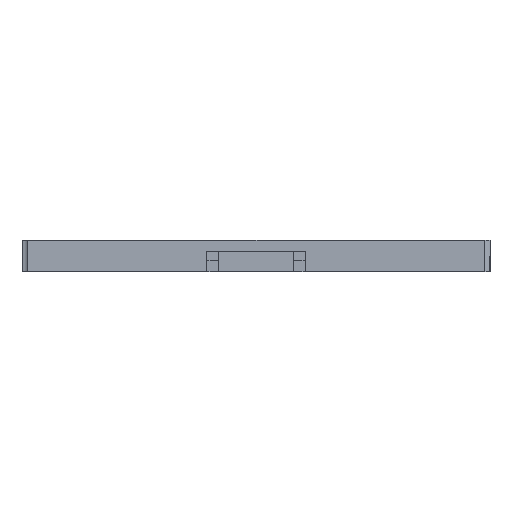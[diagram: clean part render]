
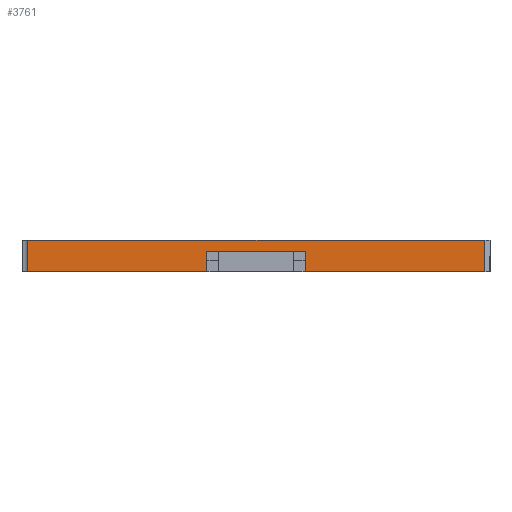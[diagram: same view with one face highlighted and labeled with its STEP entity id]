
A CAD part, front view. The second image highlights one B-rep face of the part: STEP entity #3761.
In plain terms, the highlighted planar face has unit normal (0, -1, 0).
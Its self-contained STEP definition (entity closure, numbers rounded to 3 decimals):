
#302 = CARTESIAN_POINT ( 'NONE',  ( 59., 0., 4.5 ) ) ;
#408 = DIRECTION ( 'NONE',  ( 1., 0., 0. ) ) ;
#706 = CARTESIAN_POINT ( 'NONE',  ( 59., 0., 0. ) ) ;
#1294 = CARTESIAN_POINT ( 'NONE',  ( 121.25, 0., 0. ) ) ;
#1397 = CARTESIAN_POINT ( 'NONE',  ( 0., 0., 7. ) ) ;
#1669 = LINE ( 'NONE', #9933, #8442 ) ;
#1735 = EDGE_CURVE ( 'NONE', #6414, #5324, #11280, .T. ) ;
#1889 = ORIENTED_EDGE ( 'NONE', *, *, #10875, .F. ) ;
#2241 = VECTOR ( 'NONE', #5055, 1000. ) ;
#2309 = DIRECTION ( 'NONE',  ( 0., 0., -1. ) ) ;
#3015 = DIRECTION ( 'NONE',  ( 0., 0., 1. ) ) ;
#3289 = DIRECTION ( 'NONE',  ( -1., 0., 0. ) ) ;
#3313 = EDGE_CURVE ( 'NONE', #11003, #13646, #3701, .T. ) ;
#3464 = ORIENTED_EDGE ( 'NONE', *, *, #13113, .F. ) ;
#3701 = LINE ( 'NONE', #5631, #13787 ) ;
#3761 = ADVANCED_FACE ( 'NONE', ( #4475 ), #7750, .F. ) ;
#3979 = DIRECTION ( 'NONE',  ( 0., 1., 0. ) ) ;
#4148 = ORIENTED_EDGE ( 'NONE', *, *, #3313, .F. ) ;
#4295 = CARTESIAN_POINT ( 'NONE',  ( 59., 0., 76.481 ) ) ;
#4475 = FACE_OUTER_BOUND ( 'NONE', #8804, .T. ) ;
#4730 = CARTESIAN_POINT ( 'NONE',  ( 18.75, 0., 7. ) ) ;
#4865 = ORIENTED_EDGE ( 'NONE', *, *, #6835, .T. ) ;
#5055 = DIRECTION ( 'NONE',  ( 1., 0., 0. ) ) ;
#5159 = VERTEX_POINT ( 'NONE', #302 ) ;
#5324 = VERTEX_POINT ( 'NONE', #11405 ) ;
#5631 = CARTESIAN_POINT ( 'NONE',  ( 0., 0., 7. ) ) ;
#6147 = DIRECTION ( 'NONE',  ( 0., 0., -1. ) ) ;
#6367 = LINE ( 'NONE', #8693, #12490 ) ;
#6414 = VERTEX_POINT ( 'NONE', #11124 ) ;
#6661 = CARTESIAN_POINT ( 'NONE',  ( 18.75, 0., 0. ) ) ;
#6794 = DIRECTION ( 'NONE',  ( 0., 0., -1. ) ) ;
#6835 = EDGE_CURVE ( 'NONE', #5324, #8683, #1669, .T. ) ;
#7306 = CARTESIAN_POINT ( 'NONE',  ( 121.25, 0., 7. ) ) ;
#7357 = VECTOR ( 'NONE', #6147, 1000. ) ;
#7496 = CARTESIAN_POINT ( 'NONE',  ( 81., 0., 76.481 ) ) ;
#7750 = PLANE ( 'NONE',  #10457 ) ;
#7866 = EDGE_CURVE ( 'NONE', #13094, #13002, #9484, .T. ) ;
#8056 = DIRECTION ( 'NONE',  ( 0., 0., -1. ) ) ;
#8442 = VECTOR ( 'NONE', #13706, 1000. ) ;
#8683 = VERTEX_POINT ( 'NONE', #1294 ) ;
#8693 = CARTESIAN_POINT ( 'NONE',  ( 121.25, 0., 7. ) ) ;
#8804 = EDGE_LOOP ( 'NONE', ( #4865, #1889, #4148, #9597, #12049, #3464, #9197, #14539 ) ) ;
#9196 = VECTOR ( 'NONE', #8056, 1000. ) ;
#9197 = ORIENTED_EDGE ( 'NONE', *, *, #13717, .F. ) ;
#9215 = VECTOR ( 'NONE', #6794, 1000. ) ;
#9484 = LINE ( 'NONE', #12331, #2241 ) ;
#9597 = ORIENTED_EDGE ( 'NONE', *, *, #14223, .T. ) ;
#9933 = CARTESIAN_POINT ( 'NONE',  ( 0., 0., 0. ) ) ;
#10381 = LINE ( 'NONE', #12728, #7357 ) ;
#10457 = AXIS2_PLACEMENT_3D ( 'NONE', #1397, #3979, #3015 ) ;
#10641 = LINE ( 'NONE', #12289, #11542 ) ;
#10666 = LINE ( 'NONE', #4295, #9196 ) ;
#10875 = EDGE_CURVE ( 'NONE', #13646, #8683, #6367, .T. ) ;
#11003 = VERTEX_POINT ( 'NONE', #4730 ) ;
#11124 = CARTESIAN_POINT ( 'NONE',  ( 81., 0., 4.5 ) ) ;
#11280 = LINE ( 'NONE', #7496, #9215 ) ;
#11405 = CARTESIAN_POINT ( 'NONE',  ( 81., 0., 0. ) ) ;
#11542 = VECTOR ( 'NONE', #3289, 1000. ) ;
#12049 = ORIENTED_EDGE ( 'NONE', *, *, #7866, .T. ) ;
#12289 = CARTESIAN_POINT ( 'NONE',  ( 81., 0., 4.5 ) ) ;
#12331 = CARTESIAN_POINT ( 'NONE',  ( 0., 0., 0. ) ) ;
#12490 = VECTOR ( 'NONE', #2309, 1000. ) ;
#12728 = CARTESIAN_POINT ( 'NONE',  ( 18.75, 0., 7. ) ) ;
#13002 = VERTEX_POINT ( 'NONE', #706 ) ;
#13094 = VERTEX_POINT ( 'NONE', #6661 ) ;
#13113 = EDGE_CURVE ( 'NONE', #5159, #13002, #10666, .T. ) ;
#13646 = VERTEX_POINT ( 'NONE', #7306 ) ;
#13706 = DIRECTION ( 'NONE',  ( 1., 0., 0. ) ) ;
#13717 = EDGE_CURVE ( 'NONE', #6414, #5159, #10641, .T. ) ;
#13787 = VECTOR ( 'NONE', #408, 1000. ) ;
#14223 = EDGE_CURVE ( 'NONE', #11003, #13094, #10381, .T. ) ;
#14539 = ORIENTED_EDGE ( 'NONE', *, *, #1735, .T. ) ;
